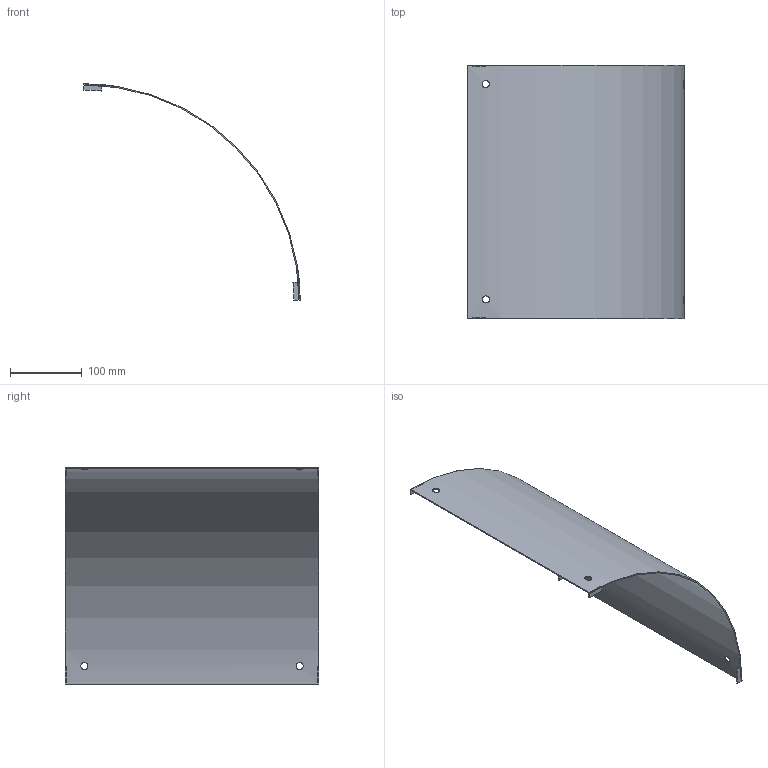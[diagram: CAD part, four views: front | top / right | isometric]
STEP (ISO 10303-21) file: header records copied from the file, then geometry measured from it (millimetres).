
FILE_DESCRIPTION(/* description */ ('','CAx-IF Rec.Pracs.---Representation and Presentation of Product Manufacturing Information (PMI)---4.0---2014-10-13'),/* implementation_level */ '2;1');
FILE_NAME(/* name */ 'Eurostrut_EORC300-90-300_Cover Outside Riser 90 for Cable Ladder ECL.step',/* time_stamp */ '2026-09-10T12:23:02+02:00',/* author */ (''),/* organization */ (''),/* preprocessor_version */ 'ST-DEVELOPER v20.1',/* originating_system */ 'Autodesk Revit 2027 27.2.0.39',/* authorisation */ '');
FILE_SCHEMA (('AP242_MANAGED_MODEL_BASED_3D_ENGINEERING_MIM_LF { 1 0 10303 442 2 1 4 }'));
Length unit declared in the file: millimetre
Products named in the file (3): TopLevelAssembly; Sweep; Joined Solid Geometry
Assembly tree (2 placements, depth 2):
  TopLevelAssembly
    Sweep
    Joined Solid Geometry
Bounding box: 301.5 x 353 x 301.5 mm (x, y, z)
Volume: 250799.9 mm3; surface area: 337455.3 mm2
Topology: 5 solids, 5 shells, 38 faces, 84 edges, 56 vertices
Faces by surface type: plane 20, cylinder 18
Entity records: 1356 total; most frequent: CARTESIAN_POINT 459, DIRECTION 174, ORIENTED_EDGE 168, EDGE_CURVE 84, AXIS2_PLACEMENT_3D 63, VERTEX_POINT 56, LINE 48, VECTOR 48
